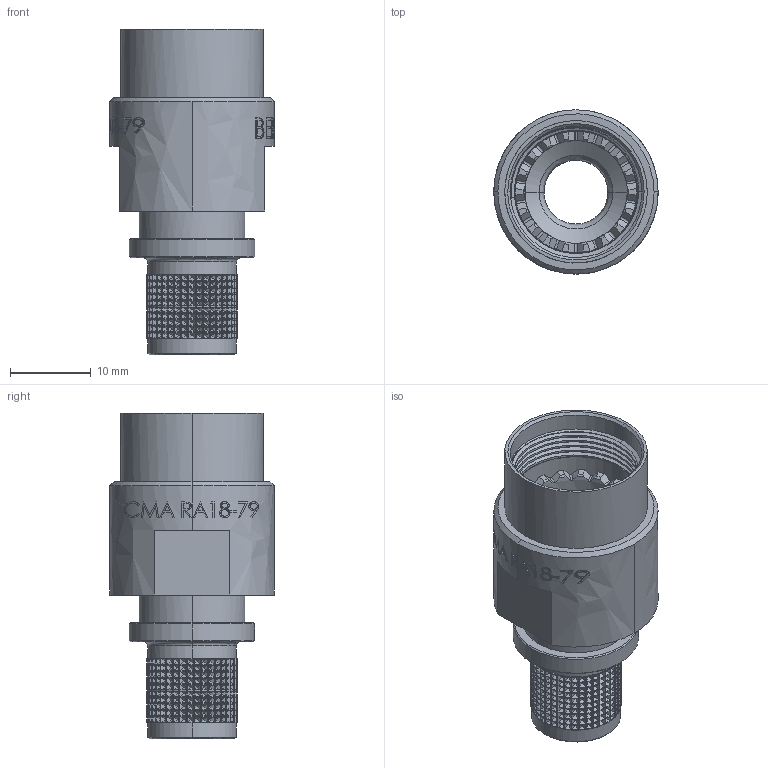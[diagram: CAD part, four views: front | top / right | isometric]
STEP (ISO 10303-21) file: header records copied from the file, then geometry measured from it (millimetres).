
FILE_DESCRIPTION (( 'STEP AP214' ), '1' );
FILE_NAME ('CMARA18-79.STEP', '2022-06-14T13:49:56', ( '' ), ( '' ), 'SwSTEP 2.0', 'SolidWorks 2021', '' );
FILE_SCHEMA (( 'AUTOMOTIVE_DESIGN' ));
Length unit declared in the file: mil
Products named in the file (1): CMARA18-79
Bounding box: 20.3 x 20.3 x 40.3 mm (x, y, z)
Surface area: 4479.8 mm2 (no closed solid volume)
Topology: 0 solids, 15 shells, 1512 faces, 6464 edges, 4174 vertices
Faces by surface type: bspline 1512
Entity records: 78306 total; most frequent: CARTESIAN_POINT 39366, ORIENTED_EDGE 12786, EDGE_CURVE 6464, B_SPLINE_CURVE_WITH_KNOTS 5287, VERTEX_POINT 4174, EDGE_LOOP 1548, ADVANCED_FACE 1512, FACE_OUTER_BOUND 1512
